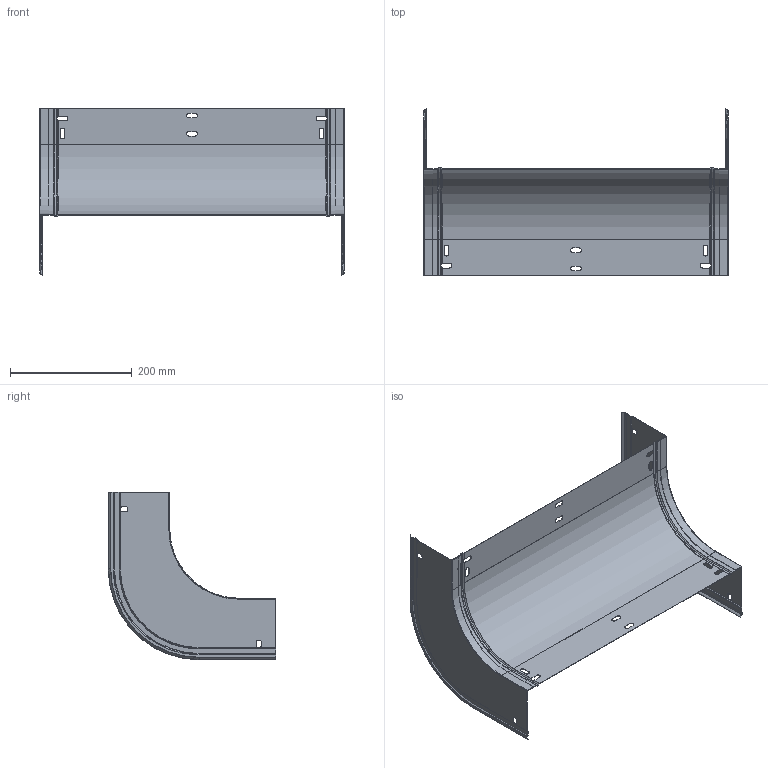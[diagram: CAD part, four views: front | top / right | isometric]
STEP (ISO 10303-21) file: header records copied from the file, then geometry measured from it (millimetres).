
FILE_DESCRIPTION (( 'STEP AP203' ), '1' );
FILE_NAME ('ERE_CONVEXA 500x100.step', '2023-07-27T18:49:42', ( '' ), ( '' ), 'SwSTEP 2.0', 'SolidWorks 2022', '' );
FILE_SCHEMA (( 'CONFIG_CONTROL_DESIGN' ));
Length unit declared in the file: millimetre
Products named in the file (3): ERE_CONVEXA 500x100; ERE_LATERAL CX_100; ERE_BASE CX_500
Assembly tree (3 placements, depth 2):
  ERE_CONVEXA 500x100
    ERE_BASE CX_500
    ERE_LATERAL CX_100  x2
Bounding box: 500 x 275.2 x 275.2 mm (x, y, z)
Volume: 197714.2 mm3; surface area: 497755.1 mm2
Topology: 3 solids, 3 shells, 232 faces, 632 edges, 394 vertices
Faces by surface type: plane 142, cylinder 64, cone 22, torus 4
Entity records: 5896 total; most frequent: CARTESIAN_POINT 1008, ORIENTED_EDGE 966, DIRECTION 957, EDGE_CURVE 483, LINE 343, VECTOR 343, AXIS2_PLACEMENT_3D 307, VERTEX_POINT 302
